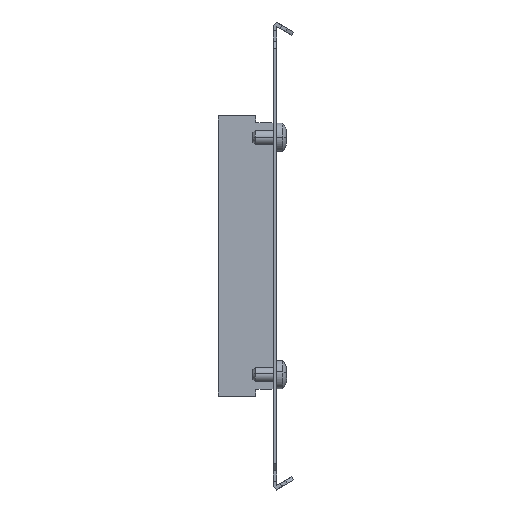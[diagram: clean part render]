
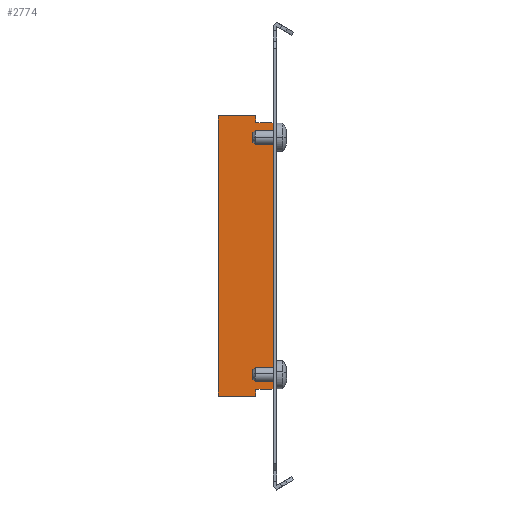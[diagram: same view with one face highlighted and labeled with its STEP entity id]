
A CAD part, left-side view. The second image highlights one B-rep face of the part: STEP entity #2774.
In plain terms, the highlighted planar face has unit normal (-1, 0, 0).
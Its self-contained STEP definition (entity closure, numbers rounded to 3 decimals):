
#83 = VECTOR ( 'NONE', #2802, 1000. ) ;
#126 = VERTEX_POINT ( 'NONE', #2149 ) ;
#195 = CARTESIAN_POINT ( 'NONE',  ( 1.5, -1.5, 56.25 ) ) ;
#226 = CARTESIAN_POINT ( 'NONE',  ( 1.5, 21.5, 59.25 ) ) ;
#309 = DIRECTION ( 'NONE',  ( 0., 0., -1. ) ) ;
#376 = EDGE_CURVE ( 'NONE', #5054, #1748, #1230, .T. ) ;
#404 = EDGE_CURVE ( 'NONE', #6064, #126, #3099, .T. ) ;
#525 = ORIENTED_EDGE ( 'NONE', *, *, #623, .F. ) ;
#547 = EDGE_CURVE ( 'NONE', #5187, #2466, #2442, .T. ) ;
#623 = EDGE_CURVE ( 'NONE', #2787, #3986, #2501, .T. ) ;
#655 = AXIS2_PLACEMENT_3D ( 'NONE', #3381, #912, #4315 ) ;
#741 = LINE ( 'NONE', #2682, #4576 ) ;
#781 = VECTOR ( 'NONE', #5145, 1000. ) ;
#912 = DIRECTION ( 'NONE',  ( -1., 0., 0. ) ) ;
#1152 = CARTESIAN_POINT ( 'NONE',  ( 1.5, 21.5, -56.75 ) ) ;
#1169 = VECTOR ( 'NONE', #309, 1000. ) ;
#1230 = LINE ( 'NONE', #1152, #2631 ) ;
#1390 = VECTOR ( 'NONE', #4091, 1000. ) ;
#1425 = CARTESIAN_POINT ( 'NONE',  ( 1.5, 0., -59.25 ) ) ;
#1511 = CARTESIAN_POINT ( 'NONE',  ( 1.5, 21.5, -56.25 ) ) ;
#1554 = CARTESIAN_POINT ( 'NONE',  ( 1.5, -1.5, 56.25 ) ) ;
#1562 = VECTOR ( 'NONE', #5495, 1000. ) ;
#1597 = VECTOR ( 'NONE', #4966, 1000. ) ;
#1622 = DIRECTION ( 'NONE',  ( 0., 0., -1. ) ) ;
#1638 = CARTESIAN_POINT ( 'NONE',  ( 1.5, 5.75, 56.75 ) ) ;
#1663 = EDGE_CURVE ( 'NONE', #2213, #1748, #3908, .T. ) ;
#1677 = DIRECTION ( 'NONE',  ( 0., 0., 1. ) ) ;
#1748 = VERTEX_POINT ( 'NONE', #5366 ) ;
#1881 = ORIENTED_EDGE ( 'NONE', *, *, #5671, .T. ) ;
#1899 = LINE ( 'NONE', #2127, #1390 ) ;
#1989 = CARTESIAN_POINT ( 'NONE',  ( 1.5, 0., 56.25 ) ) ;
#2021 = VECTOR ( 'NONE', #3235, 1000. ) ;
#2043 = ORIENTED_EDGE ( 'NONE', *, *, #376, .T. ) ;
#2127 = CARTESIAN_POINT ( 'NONE',  ( 1.5, 21.5, 0. ) ) ;
#2149 = CARTESIAN_POINT ( 'NONE',  ( 1.5, 5.75, 56.25 ) ) ;
#2213 = VERTEX_POINT ( 'NONE', #4024 ) ;
#2290 = ORIENTED_EDGE ( 'NONE', *, *, #4081, .F. ) ;
#2442 = LINE ( 'NONE', #1989, #2021 ) ;
#2466 = VERTEX_POINT ( 'NONE', #195 ) ;
#2501 = LINE ( 'NONE', #1511, #5090 ) ;
#2534 = EDGE_CURVE ( 'NONE', #5054, #5894, #741, .T. ) ;
#2570 = ORIENTED_EDGE ( 'NONE', *, *, #1663, .F. ) ;
#2631 = VECTOR ( 'NONE', #1622, 1000. ) ;
#2682 = CARTESIAN_POINT ( 'NONE',  ( 1.5, 21.5, 56.25 ) ) ;
#2774 = ADVANCED_FACE ( 'NONE', ( #5259 ), #6288, .T. ) ;
#2787 = VERTEX_POINT ( 'NONE', #4277 ) ;
#2802 = DIRECTION ( 'NONE',  ( 0., -1., 0. ) ) ;
#2810 = CARTESIAN_POINT ( 'NONE',  ( 1.5, 21.5, 56.75 ) ) ;
#2968 = CARTESIAN_POINT ( 'NONE',  ( 1.5, 5.75, 56.75 ) ) ;
#2979 = LINE ( 'NONE', #1554, #6232 ) ;
#3010 = EDGE_CURVE ( 'NONE', #2466, #6275, #6099, .T. ) ;
#3041 = CARTESIAN_POINT ( 'NONE',  ( 1.5, 5.75, 59.25 ) ) ;
#3099 = LINE ( 'NONE', #4202, #4080 ) ;
#3190 = CARTESIAN_POINT ( 'NONE',  ( 1.5, 0., 59.25 ) ) ;
#3200 = LINE ( 'NONE', #4605, #781 ) ;
#3235 = DIRECTION ( 'NONE',  ( 0., -1., 0. ) ) ;
#3294 = LINE ( 'NONE', #3190, #83 ) ;
#3381 = CARTESIAN_POINT ( 'NONE',  ( 1.5, 0., 0. ) ) ;
#3455 = CARTESIAN_POINT ( 'NONE',  ( 1.5, -0.5, -56.25 ) ) ;
#3908 = LINE ( 'NONE', #1425, #4466 ) ;
#3941 = CARTESIAN_POINT ( 'NONE',  ( 1.5, -0.5, 56.25 ) ) ;
#3986 = VERTEX_POINT ( 'NONE', #5502 ) ;
#3992 = ORIENTED_EDGE ( 'NONE', *, *, #3010, .F. ) ;
#4021 = LINE ( 'NONE', #5970, #1597 ) ;
#4024 = CARTESIAN_POINT ( 'NONE',  ( 1.5, 5.75, -59.25 ) ) ;
#4045 = VERTEX_POINT ( 'NONE', #3041 ) ;
#4080 = VECTOR ( 'NONE', #5529, 1000. ) ;
#4081 = EDGE_CURVE ( 'NONE', #126, #5187, #2979, .T. ) ;
#4091 = DIRECTION ( 'NONE',  ( 0., 0., 1. ) ) ;
#4202 = CARTESIAN_POINT ( 'NONE',  ( 1.5, 5.75, 56.75 ) ) ;
#4246 = ORIENTED_EDGE ( 'NONE', *, *, #6146, .T. ) ;
#4248 = CARTESIAN_POINT ( 'NONE',  ( 1.5, -1.5, -56.25 ) ) ;
#4277 = CARTESIAN_POINT ( 'NONE',  ( 1.5, -0.5, -56.25 ) ) ;
#4292 = EDGE_LOOP ( 'NONE', ( #525, #1881, #3992, #4813, #2290, #5203, #4246, #5960, #4850, #6318, #2043, #2570, #4512, #5392 ) ) ;
#4315 = DIRECTION ( 'NONE',  ( 0., 0., 1. ) ) ;
#4466 = VECTOR ( 'NONE', #5793, 1000. ) ;
#4512 = ORIENTED_EDGE ( 'NONE', *, *, #4612, .F. ) ;
#4568 = VERTEX_POINT ( 'NONE', #226 ) ;
#4576 = VECTOR ( 'NONE', #1677, 1000. ) ;
#4605 = CARTESIAN_POINT ( 'NONE',  ( 1.5, 5.75, 0. ) ) ;
#4612 = EDGE_CURVE ( 'NONE', #6031, #2213, #3200, .T. ) ;
#4659 = LINE ( 'NONE', #1638, #6024 ) ;
#4748 = CARTESIAN_POINT ( 'NONE',  ( 1.5, 21.5, -56.75 ) ) ;
#4813 = ORIENTED_EDGE ( 'NONE', *, *, #547, .F. ) ;
#4850 = ORIENTED_EDGE ( 'NONE', *, *, #4914, .F. ) ;
#4914 = EDGE_CURVE ( 'NONE', #5894, #4568, #1899, .T. ) ;
#4942 = EDGE_CURVE ( 'NONE', #6031, #3986, #4021, .T. ) ;
#4966 = DIRECTION ( 'NONE',  ( 0., 0., 1. ) ) ;
#4967 = CARTESIAN_POINT ( 'NONE',  ( 1.5, 5.75, -56.75 ) ) ;
#5054 = VERTEX_POINT ( 'NONE', #4748 ) ;
#5068 = DIRECTION ( 'NONE',  ( 0., 0., 1. ) ) ;
#5090 = VECTOR ( 'NONE', #5999, 1000. ) ;
#5114 = EDGE_CURVE ( 'NONE', #4568, #4045, #3294, .T. ) ;
#5145 = DIRECTION ( 'NONE',  ( 0., 0., -1. ) ) ;
#5187 = VERTEX_POINT ( 'NONE', #3941 ) ;
#5203 = ORIENTED_EDGE ( 'NONE', *, *, #404, .F. ) ;
#5259 = FACE_OUTER_BOUND ( 'NONE', #4292, .T. ) ;
#5366 = CARTESIAN_POINT ( 'NONE',  ( 1.5, 21.5, -59.25 ) ) ;
#5392 = ORIENTED_EDGE ( 'NONE', *, *, #4942, .T. ) ;
#5495 = DIRECTION ( 'NONE',  ( 0., -1., 0. ) ) ;
#5502 = CARTESIAN_POINT ( 'NONE',  ( 1.5, 5.75, -56.25 ) ) ;
#5529 = DIRECTION ( 'NONE',  ( 0., 0., -1. ) ) ;
#5671 = EDGE_CURVE ( 'NONE', #2787, #6275, #5884, .T. ) ;
#5711 = CARTESIAN_POINT ( 'NONE',  ( 1.5, -1.5, 0. ) ) ;
#5793 = DIRECTION ( 'NONE',  ( 0., 1., 0. ) ) ;
#5884 = LINE ( 'NONE', #3455, #1562 ) ;
#5894 = VERTEX_POINT ( 'NONE', #2810 ) ;
#5928 = DIRECTION ( 'NONE',  ( 0., -1., 0. ) ) ;
#5960 = ORIENTED_EDGE ( 'NONE', *, *, #5114, .F. ) ;
#5970 = CARTESIAN_POINT ( 'NONE',  ( 1.5, 5.75, -56.75 ) ) ;
#5999 = DIRECTION ( 'NONE',  ( 0., 1., 0. ) ) ;
#6024 = VECTOR ( 'NONE', #5068, 1000. ) ;
#6031 = VERTEX_POINT ( 'NONE', #4967 ) ;
#6064 = VERTEX_POINT ( 'NONE', #2968 ) ;
#6099 = LINE ( 'NONE', #5711, #1169 ) ;
#6146 = EDGE_CURVE ( 'NONE', #6064, #4045, #4659, .T. ) ;
#6232 = VECTOR ( 'NONE', #5928, 1000. ) ;
#6275 = VERTEX_POINT ( 'NONE', #4248 ) ;
#6288 = PLANE ( 'NONE',  #655 ) ;
#6318 = ORIENTED_EDGE ( 'NONE', *, *, #2534, .F. ) ;
